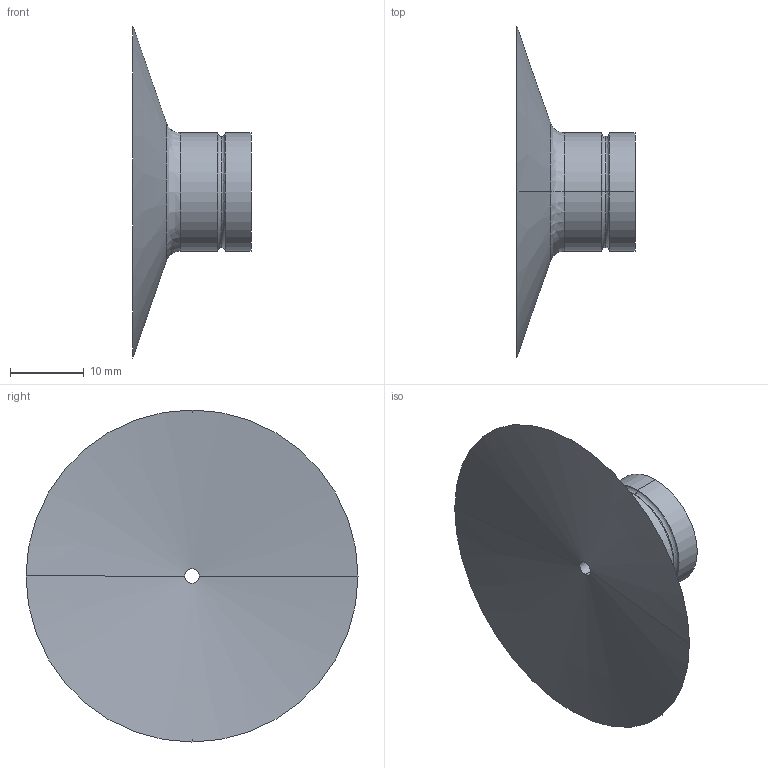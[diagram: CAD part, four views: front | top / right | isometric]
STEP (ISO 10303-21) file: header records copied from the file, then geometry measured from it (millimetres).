
FILE_DESCRIPTION (( 'STEP AP214' ), '1' );
FILE_NAME ('VSR-45R.STEP', '2019-11-14T01:40:59', ( '微软用户' ), ( '微软中国' ), 'SwSTEP 2.0', 'SolidWorks 2016', '' );
FILE_SCHEMA (( 'AUTOMOTIVE_DESIGN' ));
Length unit declared in the file: millimetre
Products named in the file (1): VSR-45R
Bounding box: 16 x 45 x 45 mm (x, y, z)
Volume: 4318.3 mm3; surface area: 4181.5 mm2
Topology: 1 solids, 1 shells, 23 faces, 50 edges, 30 vertices
Faces by surface type: cylinder 10, bspline 6, cone 4, plane 3
Entity records: 738 total; most frequent: CARTESIAN_POINT 212, DIRECTION 110, ORIENTED_EDGE 100, EDGE_CURVE 50, AXIS2_PLACEMENT_3D 48, VERTEX_POINT 30, CIRCLE 30, EDGE_LOOP 26
